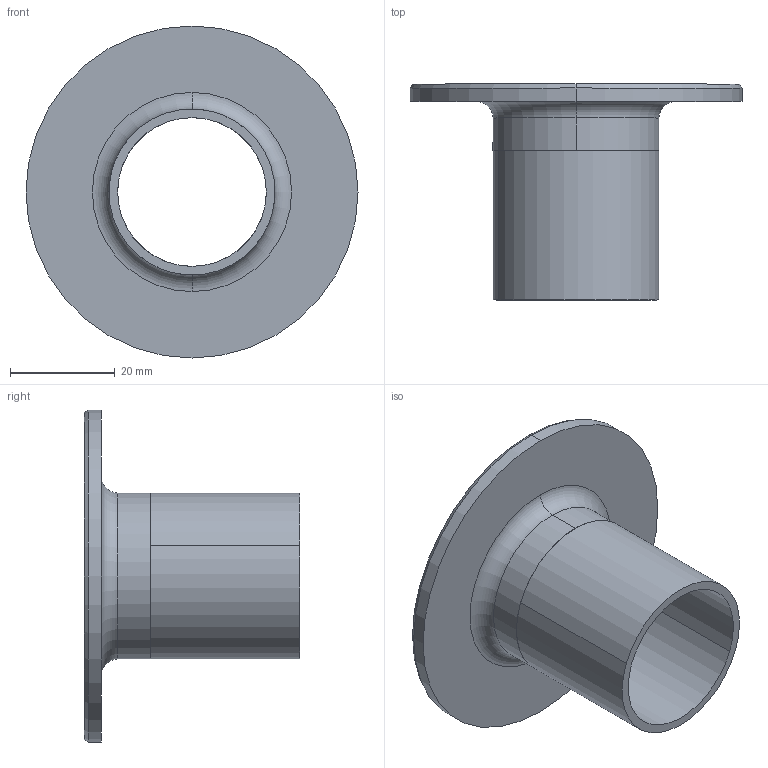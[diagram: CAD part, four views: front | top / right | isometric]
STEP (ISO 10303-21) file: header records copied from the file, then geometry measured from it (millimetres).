
FILE_DESCRIPTION (( 'STEP AP203' ), '1' );
FILE_NAME ('E14WA1.25.STEP', '2018-05-04T18:04:21', ( 'vneprd' ), ( 'Microsoft' ), 'SwSTEP 2.0', 'SolidWorks 2014', '' );
FILE_SCHEMA (( 'CONFIG_CONTROL_DESIGN' ));
Length unit declared in the file: inch
Products named in the file (3): E14WA1.25; TUBE1.25X1.125; V14WAB1.25
Assembly tree (2 placements, depth 2):
  E14WA1.25
    V14WAB1.25
    TUBE1.25X1.125
Bounding box: 63.5 x 41.27 x 63.5 mm (x, y, z)
Volume: 13515.4 mm3; surface area: 15782.1 mm2
Topology: 2 solids, 2 shells, 94 faces, 188 edges, 98 vertices
Faces by surface type: cone 78, cylinder 10, plane 4, torus 2
Entity records: 2695 total; most frequent: DIRECTION 486, CARTESIAN_POINT 385, ORIENTED_EDGE 376, AXIS2_PLACEMENT_3D 199, EDGE_CURVE 188, CIRCLE 100, VERTEX_POINT 98, EDGE_LOOP 98
